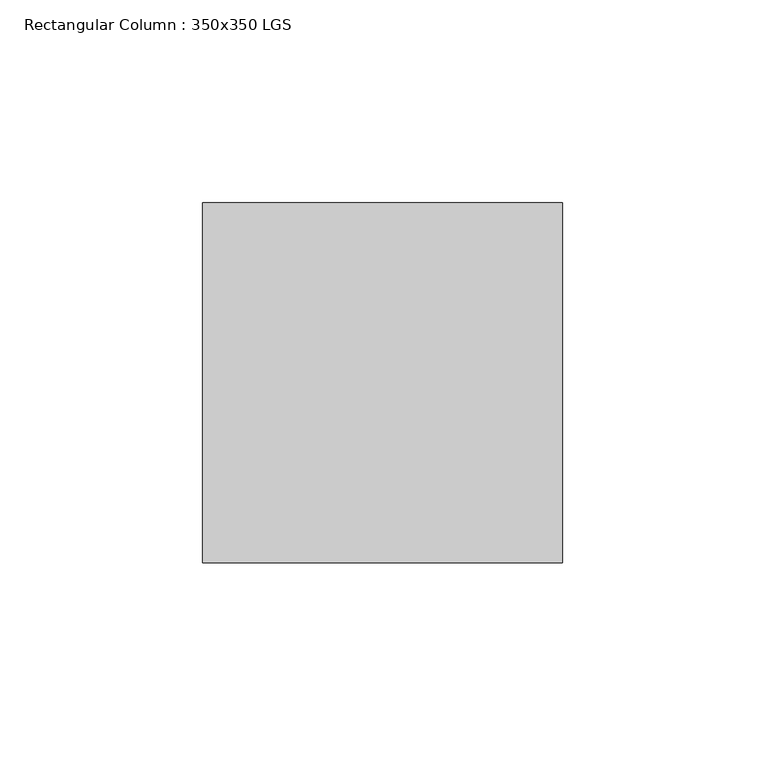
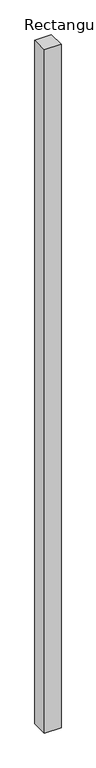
"""IFC4 building model written with IfcOpenShell, lengths in millimetres: column geometry, Rectangular Column : 350x350 LGS."""

import ifcopenshell
import ifcopenshell.guid

model = None  # the IFC model being written
_history = None  # IfcOwnerHistory: only IFC2X3 demands one
_inside = {}  # id of a spatial element -> (the spatial element, [elements in it])
_under = {}  # id of a project, library or spatial element -> (it, [spatial elements below it])
_declared = {}  # id of a project -> (the project, [libraries it declares])
_typed = {}  # id of a type object -> (the type object, [elements of that type])
_made_of = {}  # id of a material, layer set ... -> (it, [elements and type objects made of it])


def new_model(schema):
    """Start an empty IFC model of exactly this schema.

    Asked for "IFC4X3", IfcOpenShell would pick the latest addendum, in which some entities
    have other attributes; the version numbers below select the first issue.
    IFC2X3 requires an IfcOwnerHistory on every rooted entity: one is made here for all.
    """
    global model, _history
    if schema == "IFC4X3":
        model = ifcopenshell.file(schema_version=(4, 3, 0, 0))
    else:
        model = ifcopenshell.file(schema=schema)
    _inside.clear()
    _under.clear()
    _declared.clear()
    _typed.clear()
    _made_of.clear()
    _history = None
    if model.schema == "IFC2X3":
        org = make("IfcOrganization", Name="unknown")
        user = make(
            "IfcPersonAndOrganization",
            ThePerson=make("IfcPerson", FamilyName="unknown"),
            TheOrganization=org,
        )
        app = make(
            "IfcApplication",
            ApplicationDeveloper=org,
            Version="unknown",
            ApplicationFullName="unknown",
            ApplicationIdentifier="unknown",
        )
        _history = make(
            "IfcOwnerHistory",
            OwningUser=user,
            OwningApplication=app,
            ChangeAction="ADDED",
            CreationDate=0,
        )
    return model


def make(cls, **values):
    """One entity of the class cls with the attributes given. An attribute that is None is left unset."""
    return model.create_entity(
        cls, **{name: value for name, value in values.items() if value is not None}
    )


def rooted(cls, **values):
    """An entity with a GlobalId (a new one), such as an element, a storey or a relation."""
    return make(cls, GlobalId=ifcopenshell.guid.new(), OwnerHistory=_history, **values)


def si_unit(unit_type, name, prefix=None):
    """IfcSIUnit, for example si_unit("LENGTHUNIT", "METRE", prefix="MILLI")."""
    return make("IfcSIUnit", UnitType=unit_type, Prefix=prefix, Name=name)


def assignment(units):
    """IfcUnitAssignment: the units of a project."""
    return None if units is None else make("IfcUnitAssignment", Units=units)


def point(xyz):
    """IfcCartesianPoint."""
    return None if xyz is None else make("IfcCartesianPoint", Coordinates=xyz)


def direction(xyz):
    """IfcDirection."""
    return None if xyz is None else make("IfcDirection", DirectionRatios=xyz)


def frame(location, z_axis=None, x_axis=None):
    """IfcAxis2Placement3D, a coordinate frame: its origin and axes. An axis left out is left unset."""
    return make(
        "IfcAxis2Placement3D",
        Location=point(location),
        Axis=direction(z_axis),
        RefDirection=direction(x_axis),
    )


def origin():
    """The frame at (0, 0, 0) with its axes left unset."""
    return frame((0.0, 0.0, 0.0))


def place(relative_to, where):
    """IfcLocalPlacement: puts the frame where relative to a parent placement (None: the world)."""
    return make(
        "IfcLocalPlacement", PlacementRelTo=relative_to, RelativePlacement=where
    )


def context(
    kind, dimensions, precision=None, world=None, true_north=None, identifier=None
):
    """IfcGeometricRepresentationContext, for example the 3D "Model" context."""
    return make(
        "IfcGeometricRepresentationContext",
        ContextIdentifier=identifier,
        ContextType=kind,
        CoordinateSpaceDimension=dimensions,
        Precision=precision,
        WorldCoordinateSystem=world,
        TrueNorth=true_north,
    )


def project(units=None, contexts=None):
    """IfcProject with its units and contexts."""
    return rooted(
        "IfcProject",
        Name="project",
        RepresentationContexts=contexts,
        UnitsInContext=assignment(units),
    )


def spatial(cls, under=None, at=None, **own):
    """A site, building, storey or space (cls), placed at a placement, below another one or the project."""
    s = rooted(cls, ObjectPlacement=at, **own)
    if under is not None:
        _under.setdefault(under.id(), (under, []))[1].append(s)
    return s


def polyline(points):
    """IfcPolyline through the points."""
    return make("IfcPolyline", Points=[point(p) for p in points])


def outline(outer, holes=None, kind="AREA"):
    """IfcArbitraryClosedProfileDef: a profile drawn as a closed curve; with holes, ...WithVoids."""
    if holes is None:
        return make("IfcArbitraryClosedProfileDef", ProfileType=kind, OuterCurve=outer)
    return make(
        "IfcArbitraryProfileDefWithVoids",
        ProfileType=kind,
        OuterCurve=outer,
        InnerCurves=holes,
    )


def extrude(swept, where, along, depth):
    """IfcExtrudedAreaSolid: the profile swept, set in the frame where, extruded along a direction by depth."""
    return make(
        "IfcExtrudedAreaSolid",
        SweptArea=swept,
        Position=where,
        ExtrudedDirection=direction(along),
        Depth=depth,
    )


def shape(context_of_items, identifier, shape_type, items):
    """IfcShapeRepresentation: the items that make up one representation, for example the "Body"."""
    return make(
        "IfcShapeRepresentation",
        ContextOfItems=context_of_items,
        RepresentationIdentifier=identifier,
        RepresentationType=shape_type,
        Items=items,
    )


def source(mapping_origin, context_of_items, identifier, shape_type, items):
    """IfcRepresentationMap: a shape defined once, which mapped items show again and again."""
    return make(
        "IfcRepresentationMap",
        MappingOrigin=mapping_origin,
        MappedRepresentation=shape(context_of_items, identifier, shape_type, items),
    )


def transform(
    local_origin,
    x_axis=None,
    y_axis=None,
    z_axis=None,
    scale=None,
    scale2=None,
    scale3=None,
    uniform=True,
):
    """IfcCartesianTransformationOperator3D, or its non-uniform kind. x_axis, y_axis, z_axis: its Axis1, 2, 3."""
    if uniform:
        return make(
            "IfcCartesianTransformationOperator3D",
            Axis1=direction(x_axis),
            Axis2=direction(y_axis),
            LocalOrigin=point(local_origin),
            Scale=scale,
            Axis3=direction(z_axis),
        )
    return make(
        "IfcCartesianTransformationOperator3DnonUniform",
        Axis1=direction(x_axis),
        Axis2=direction(y_axis),
        LocalOrigin=point(local_origin),
        Scale=scale,
        Axis3=direction(z_axis),
        Scale2=scale2,
        Scale3=scale3,
    )


def mapped(mapping_source, mapping_target):
    """IfcMappedItem: shows the shape of a source again, moved by a transform."""
    return make(
        "IfcMappedItem", MappingSource=mapping_source, MappingTarget=mapping_target
    )


def made_of(thing, what):
    """Note that an element or type object is made of a material, layer set ...; save() writes the relation."""
    if what is not None:
        _made_of.setdefault(what.id(), (what, []))[1].append(thing)
    return thing


def element(
    cls,
    number,
    at=None,
    inside=None,
    cuts=None,
    type_object=None,
    material=None,
    context=None,
    identifier="Body",
    shape_type=None,
    held_by="IfcProductDefinitionShape",
    body=None,
    shapes=None,
    **own,
):
    """One element of the class cls, such as IfcWall. Its Tag is "e" and its number.

    at: its placement. inside: the storey or other place that contains it. cuts: it is an
    opening in that element (IfcRelVoidsElement). A single representation is given by context,
    identifier, shape_type and body (its items); several are given by shapes. held_by: the class
    of the entity that holds the representations. save() writes the other relations.
    """
    e = rooted(cls, Tag="e%d" % number, ObjectPlacement=at, **own)
    if body is not None:
        shapes = [shape(context, identifier, shape_type, body)]
    if shapes is not None:
        e.Representation = make(held_by, Representations=shapes)
    if inside is not None:
        _inside.setdefault(inside.id(), (inside, []))[1].append(e)
    if cuts is not None:
        rooted(
            "IfcRelVoidsElement", RelatingBuildingElement=cuts, RelatedOpeningElement=e
        )
    if type_object is not None:
        _typed.setdefault(type_object.id(), (type_object, []))[1].append(e)
    return made_of(e, material)


def aggregate(whole, parts):
    """IfcRelAggregates: a whole, such as a stair, and the parts it consists of."""
    return rooted("IfcRelAggregates", RelatingObject=whole, RelatedObjects=parts)


def save(model, path):
    """Write the relations noted so far, then the file.

    IfcRelAggregates (storeys below a building ...), IfcRelContainedInSpatialStructure (elements
    in a storey), IfcRelDefinesByType, IfcRelAssociatesMaterial and IfcRelDeclares: one each for
    every whole, place, type object, material and project.
    """
    for whole, parts in _under.values():
        aggregate(whole, parts)
    for where, things in _inside.values():
        rooted(
            "IfcRelContainedInSpatialStructure",
            RelatedElements=things,
            RelatingStructure=where,
        )
    for kind, things in _typed.values():
        rooted("IfcRelDefinesByType", RelatedObjects=things, RelatingType=kind)
    for what, things in _made_of.values():
        rooted("IfcRelAssociatesMaterial", RelatedObjects=things, RelatingMaterial=what)
    for by, libraries in _declared.values():
        rooted("IfcRelDeclares", RelatingContext=by, RelatedDefinitions=libraries)
    model.write(path)


def rectangular_column_350x350_lgs_51815f61(model_context):
    return source(origin(), model_context, "Body", "SweptSolid", [
        extrude(outline(polyline([(44.45, 44.45), (44.45, -44.45), (-44.45, -44.45), (-44.45, 44.45), (44.45, 44.45)])), frame((0.0, 0.0, -815.975), z_axis=(0.0, 0.0, 1.0), x_axis=(1.0, 0.0, 0.0)), (0.0, 0.0, 1.0), 3876.675),
    ])


if __name__ == "__main__":
    model = new_model("IFC4")
    model_context = context("Model", 3, world=origin())
    ifc_project = project(units=[si_unit("LENGTHUNIT", "METRE", prefix="MILLI")], contexts=[model_context])
    site = spatial("IfcSite", under=ifc_project)
    building = spatial("IfcBuilding", under=site)
    placement = place(None, origin())
    rectangular_column_350x350_lgs_shape = rectangular_column_350x350_lgs_51815f61(model_context)
    element("IfcColumn", 1, ObjectType="Rectangular Column : 350x350 LGS", at=placement, inside=building, context=model_context, shape_type="MappedRepresentation", body=[
        mapped(rectangular_column_350x350_lgs_shape, transform((0.0, 0.0, 0.0), x_axis=(1.0, 0.0, 0.0), y_axis=(0.0, 1.0, 0.0), z_axis=(0.0, 0.0, 1.0))),
    ])
    save(model, "model.ifc")
